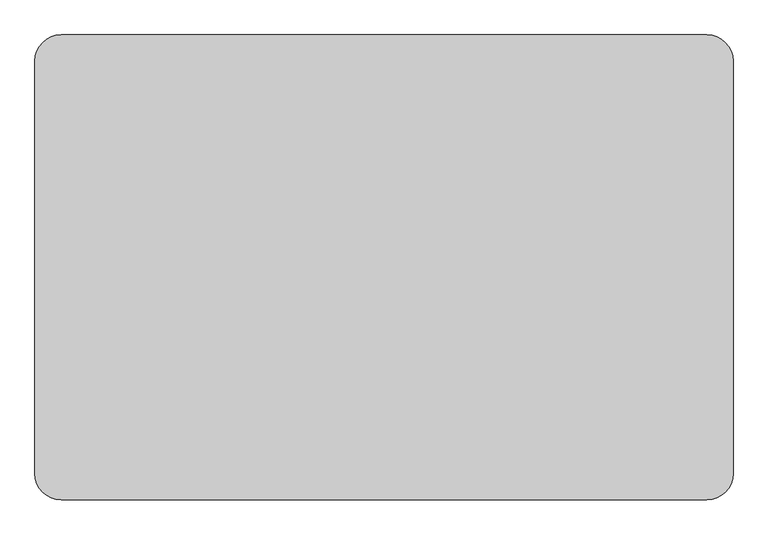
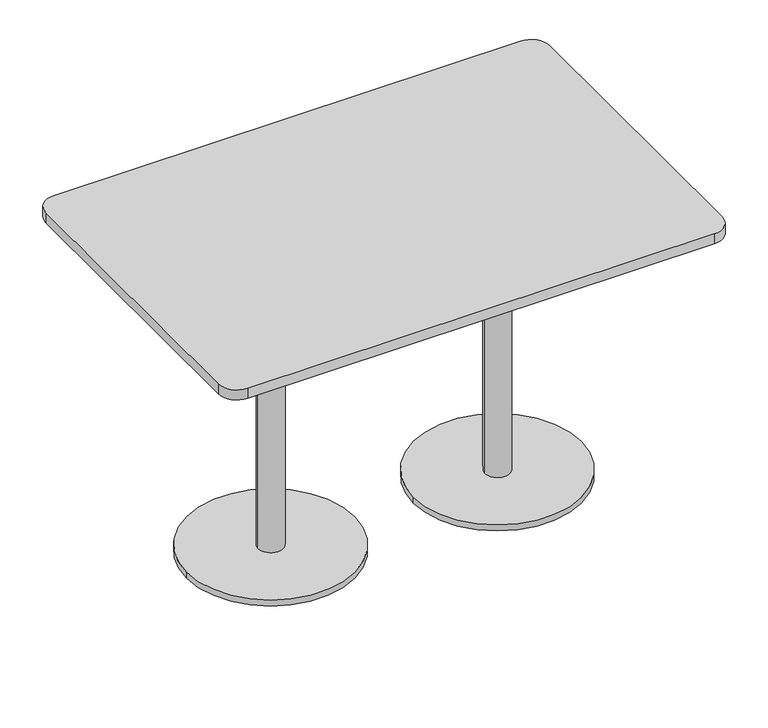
"""IFC4 building model written with IfcOpenShell, lengths in millimetres: furniture geometry, OPP-SH-12-80 - Standard Height - 1200x800 Rectangle : OPP-SH-12-80 - Standard Height - 1200x800 Rectangle."""

from ifc_helpers import new_model, si_unit, point, frame, frame_2d, origin, origin_with_axes, place, context, project, spatial, polyline, circle_curve, trimmed, segment, composite_curve, outline, extrude, source, transform, mapped, element, save


def furniture_63e6da80(model_context):
    return source(origin(), model_context, "Body", "SweptSolid", [
        extrude(outline(composite_curve([segment(trimmed(circle_curve(frame_2d((-270.0, 0.0)), 30.0), [point((-300.0, 0.0))], [point((-240.0, 0.0))], False, "CARTESIAN"), True, "CONTINUOUS"), segment(trimmed(circle_curve(frame_2d((-270.0, 0.0)), 30.0), [point((-240.0, 0.0))], [point((-300.0, 0.0))], False, "CARTESIAN"), True, "CONTINUOUS")], self_intersect=False)), frame((0.0, 0.0, 15.0), z_axis=(0.0, 0.0, 1.0), x_axis=(1.0, 0.0, 0.0)), (0.0, 0.0, 1.0), 710.0),
        extrude(outline(composite_curve([segment(trimmed(circle_curve(frame_2d((-270.0, 0.0)), 200.0), [point((-470.0, 0.0))], [point((-70.0, 0.0))], False, "CARTESIAN"), True, "CONTINUOUS"), segment(trimmed(circle_curve(frame_2d((-270.0, 0.0)), 200.0), [point((-70.0, 0.0))], [point((-470.0, 0.0))], False, "CARTESIAN"), True, "CONTINUOUS")], self_intersect=False)), origin_with_axes(), (0.0, 0.0, 1.0), 15.0),
        extrude(outline(composite_curve([segment(trimmed(circle_curve(frame_2d((270.0, 0.0)), 30.0), [point((240.0, 0.0))], [point((300.0, 0.0))], False, "CARTESIAN"), True, "CONTINUOUS"), segment(trimmed(circle_curve(frame_2d((270.0, 0.0)), 30.0), [point((300.0, 0.0))], [point((240.0, 0.0))], False, "CARTESIAN"), True, "CONTINUOUS")], self_intersect=False)), frame((0.0, 0.0, 15.0), z_axis=(0.0, 0.0, 1.0), x_axis=(1.0, 0.0, 0.0)), (0.0, 0.0, 1.0), 710.0),
        extrude(outline(composite_curve([segment(trimmed(circle_curve(frame_2d((270.0, 0.0)), 200.0), [point((70.0, 0.0))], [point((470.0, 0.0))], False, "CARTESIAN"), True, "CONTINUOUS"), segment(trimmed(circle_curve(frame_2d((270.0, 0.0)), 200.0), [point((470.0, 0.0))], [point((70.0, 0.0))], False, "CARTESIAN"), True, "CONTINUOUS")], self_intersect=False)), origin_with_axes(), (0.0, 0.0, 1.0), 15.0),
        extrude(outline(composite_curve([segment(trimmed(circle_curve(frame_2d((555.0, 355.0)), 45.0), [point((555.0, 400.0))], [point((600.0, 355.0))], False, "CARTESIAN"), True, "CONTINUOUS"), segment(polyline([(600.0, 355.0), (600.0, -355.0)]), True, "CONTINUOUS"), segment(trimmed(circle_curve(frame_2d((555.0, -355.0)), 45.0), [point((600.0, -355.0))], [point((555.0, -400.0))], False, "CARTESIAN"), True, "CONTINUOUS"), segment(polyline([(555.0, -400.0), (-555.0, -400.0)]), True, "CONTINUOUS"), segment(trimmed(circle_curve(frame_2d((-555.0, -355.0)), 45.0), [point((-555.0, -400.0))], [point((-600.0, -355.0))], False, "CARTESIAN"), True, "CONTINUOUS"), segment(polyline([(-600.0, -355.0), (-600.0, 355.0)]), True, "CONTINUOUS"), segment(trimmed(circle_curve(frame_2d((-555.0, 355.0)), 45.0), [point((-600.0, 355.0))], [point((-555.0, 400.0))], False, "CARTESIAN"), True, "CONTINUOUS"), segment(polyline([(-555.0, 400.0), (555.0, 400.0)]), True, "CONTINUOUS")], self_intersect=False)), frame((0.0, 0.0, 725.0), z_axis=(0.0, 0.0, 1.0), x_axis=(1.0, 0.0, 0.0)), (0.0, 0.0, 1.0), 25.0),
    ])


if __name__ == "__main__":
    model = new_model("IFC4")
    model_context = context("Model", 3, world=origin())
    ifc_project = project(units=[si_unit("LENGTHUNIT", "METRE", prefix="MILLI")], contexts=[model_context])
    site = spatial("IfcSite", under=ifc_project)
    building = spatial("IfcBuilding", under=site)
    placement = place(None, origin())
    furniture_shape = furniture_63e6da80(model_context)
    element("IfcFurniture", 1, ObjectType="OPP-SH-12-80 - Standard Height - 1200x800 Rectangle : OPP-SH-12-80 - Standard Height - 1200x800 Rectangle", at=placement, inside=building, context=model_context, shape_type="MappedRepresentation", body=[
        mapped(furniture_shape, transform((0.0, 0.0, 0.0), x_axis=(1.0, 0.0, 0.0), y_axis=(0.0, 1.0, 0.0), z_axis=(0.0, 0.0, 1.0))),
    ])
    save(model, "model.ifc")
